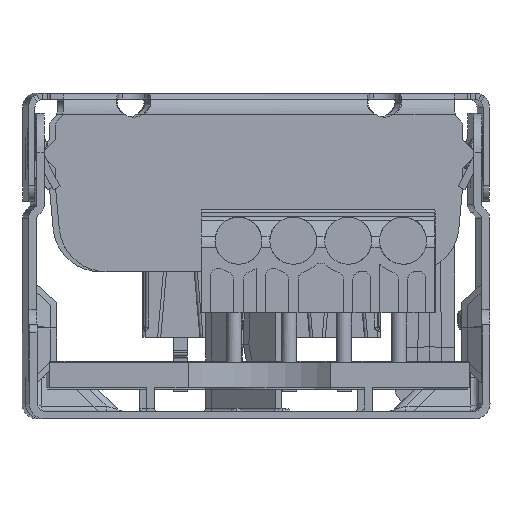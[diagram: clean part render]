
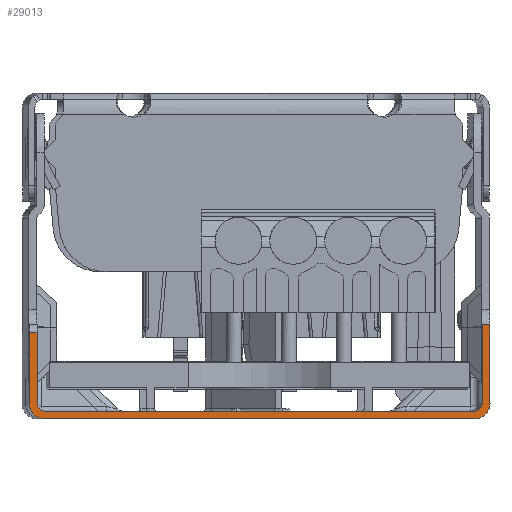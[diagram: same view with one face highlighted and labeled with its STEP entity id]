
A CAD part, left-side view. The second image highlights one B-rep face of the part: STEP entity #29013.
In plain terms, the highlighted planar face has unit normal (-1, -0.001, 0).
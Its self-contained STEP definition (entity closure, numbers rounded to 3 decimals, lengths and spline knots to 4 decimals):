
#1556=PLANE('',#31314);
#3435=LINE('',#45769,#6253);
#3481=LINE('',#45878,#6299);
#3552=LINE('',#46078,#6370);
#3557=LINE('',#46090,#6375);
#3600=LINE('',#46248,#6418);
#3630=LINE('',#46352,#6448);
#4133=LINE('',#49099,#6951);
#4148=LINE('',#49150,#6966);
#6253=VECTOR('',#35960,1.0787);
#6299=VECTOR('',#36032,1.0787);
#6370=VECTOR('',#36187,0.0197);
#6375=VECTOR('',#36198,0.1772);
#6418=VECTOR('',#36305,0.1772);
#6448=VECTOR('',#36361,0.1969);
#6951=VECTOR('',#37958,0.0197);
#6966=VECTOR('',#38037,0.1969);
#8733=FACE_OUTER_BOUND('',#10378,.T.);
#10378=EDGE_LOOP('',(#24642,#24643,#24644,#24645,#24646,#24647,#24648,#24649,
#24650,#24651,#24652,#24653));
#11292=CIRCLE('',#30813,0.0197);
#11297=CIRCLE('',#30833,0.0394);
#11310=CIRCLE('',#30861,0.0197);
#11317=CIRCLE('',#30886,0.0394);
#13148=VERTEX_POINT('',#45766);
#13149=VERTEX_POINT('',#45768);
#13198=VERTEX_POINT('',#45875);
#13199=VERTEX_POINT('',#45877);
#13285=VERTEX_POINT('',#46075);
#13286=VERTEX_POINT('',#46077);
#13290=VERTEX_POINT('',#46089);
#13353=VERTEX_POINT('',#46246);
#13393=VERTEX_POINT('',#46349);
#13394=VERTEX_POINT('',#46351);
#13470=VERTEX_POINT('',#46973);
#13725=VERTEX_POINT('',#49098);
#16432=EDGE_CURVE('',#13149,#13148,#3435,.T.);
#16488=EDGE_CURVE('',#13199,#13198,#3481,.T.);
#16589=EDGE_CURVE('',#13285,#13286,#3552,.T.);
#16595=EDGE_CURVE('',#13290,#13286,#3557,.T.);
#16668=EDGE_CURVE('',#13285,#13353,#3600,.T.);
#16711=EDGE_CURVE('',#13394,#13393,#3630,.T.);
#16824=EDGE_CURVE('',#13198,#13290,#11292,.T.);
#16840=EDGE_CURVE('',#13353,#13149,#11297,.T.);
#16860=EDGE_CURVE('',#13393,#13199,#11310,.T.);
#16883=EDGE_CURVE('',#13148,#13470,#11317,.T.);
#17429=EDGE_CURVE('',#13725,#13394,#4133,.T.);
#17448=EDGE_CURVE('',#13470,#13725,#4148,.T.);
#24642=ORIENTED_EDGE('',*,*,#16589,.F.);
#24643=ORIENTED_EDGE('',*,*,#16668,.T.);
#24644=ORIENTED_EDGE('',*,*,#16840,.T.);
#24645=ORIENTED_EDGE('',*,*,#16432,.T.);
#24646=ORIENTED_EDGE('',*,*,#16883,.T.);
#24647=ORIENTED_EDGE('',*,*,#17448,.T.);
#24648=ORIENTED_EDGE('',*,*,#17429,.T.);
#24649=ORIENTED_EDGE('',*,*,#16711,.T.);
#24650=ORIENTED_EDGE('',*,*,#16860,.T.);
#24651=ORIENTED_EDGE('',*,*,#16488,.T.);
#24652=ORIENTED_EDGE('',*,*,#16824,.T.);
#24653=ORIENTED_EDGE('',*,*,#16595,.T.);
#29013=ADVANCED_FACE('',(#8733),#1556,.F.);
#30813=AXIS2_PLACEMENT_3D('',#46668,#36597,#36598);
#30833=AXIS2_PLACEMENT_3D('',#46747,#36641,#36642);
#30861=AXIS2_PLACEMENT_3D('',#46882,#36701,#36702);
#30886=AXIS2_PLACEMENT_3D('',#46975,#36760,#36761);
#31314=AXIS2_PLACEMENT_3D('',#49153,#38041,#38042);
#35960=DIRECTION('',(0.001,-1.,0.));
#36032=DIRECTION('',(-0.001,1.,0.));
#36187=DIRECTION('',(0.001,-1.,0.));
#36198=DIRECTION('',(0.,0.,1.));
#36305=DIRECTION('',(0.,0.,-1.));
#36361=DIRECTION('',(0.,0.,-1.));
#36597=DIRECTION('center_axis',(1.,0.001,0.));
#36598=DIRECTION('ref_axis',(0.,0.,
-1.));
#36641=DIRECTION('center_axis',(-1.,-0.001,
0.));
#36642=DIRECTION('ref_axis',(0.,0.,
1.));
#36701=DIRECTION('center_axis',(1.,0.001,0.));
#36702=DIRECTION('ref_axis',(0.001,-1.,0.));
#36760=DIRECTION('center_axis',(-1.,-0.001,
0.));
#36761=DIRECTION('ref_axis',(-0.001,1.,0.));
#37958=DIRECTION('',(-0.001,1.,0.));
#38037=DIRECTION('',(0.,0.,1.));
#38041=DIRECTION('center_axis',(1.,0.001,0.));
#38042=DIRECTION('ref_axis',(0.,0.,-1.));
#45766=CARTESIAN_POINT('',(-7.1764,4.4849,-2.8114));
#45768=CARTESIAN_POINT('',(-7.1778,5.5637,-2.8114));
#45769=CARTESIAN_POINT('',(-7.1778,5.5637,-2.8114));
#45875=CARTESIAN_POINT('',(-7.1778,5.5637,-2.7917));
#45877=CARTESIAN_POINT('',(-7.1764,4.4849,-2.7917));
#45878=CARTESIAN_POINT('',(-7.1764,4.4849,-2.7917));
#46075=CARTESIAN_POINT('',(-7.1778,5.603,-2.5949));
#46077=CARTESIAN_POINT('',(-7.1778,5.5833,-2.5949));
#46078=CARTESIAN_POINT('',(-7.1774,5.294,-2.5949));
#46089=CARTESIAN_POINT('',(-7.1778,5.5833,-2.772));
#46090=CARTESIAN_POINT('',(-7.1778,5.5833,-2.772));
#46246=CARTESIAN_POINT('',(-7.1778,5.603,-2.772));
#46248=CARTESIAN_POINT('',(-7.1778,5.603,-2.3068));
#46349=CARTESIAN_POINT('',(-7.1764,4.4652,-2.772));
#46351=CARTESIAN_POINT('',(-7.1764,4.4652,-2.5752));
#46352=CARTESIAN_POINT('',(-7.1764,4.4652,-2.3068));
#46668=CARTESIAN_POINT('Origin',(-7.1778,5.5637,-2.772));
#46747=CARTESIAN_POINT('Origin',(-7.1778,5.5637,-2.772));
#46882=CARTESIAN_POINT('Origin',(-7.1764,4.4849,-2.772));
#46973=CARTESIAN_POINT('',(-7.1764,4.4456,-2.772));
#46975=CARTESIAN_POINT('Origin',(-7.1764,4.4849,-2.772));
#49098=CARTESIAN_POINT('',(-7.1764,4.4456,-2.5752));
#49099=CARTESIAN_POINT('',(-7.1774,5.294,-2.5752));
#49150=CARTESIAN_POINT('',(-7.1764,4.4456,-2.772));
#49153=CARTESIAN_POINT('Origin',(-7.1771,5.0243,-2.5776));
